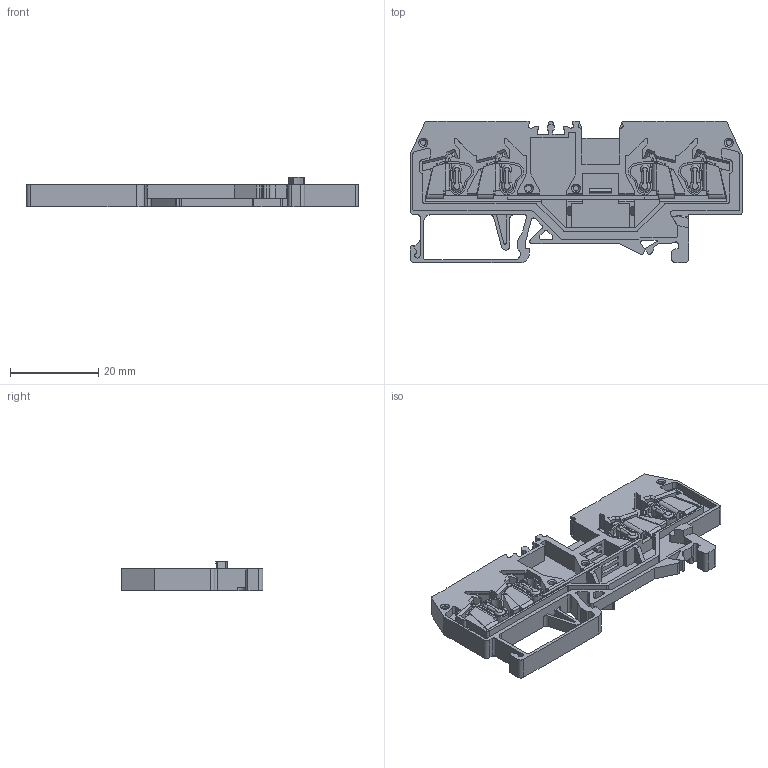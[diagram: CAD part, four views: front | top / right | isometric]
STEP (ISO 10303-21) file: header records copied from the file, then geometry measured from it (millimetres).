
FILE_DESCRIPTION (( 'STEP AP203' ), '1' );
FILE_NAME ('ﾊﾏﾐ1-2,5ﾂ-4ﾂ.STEP', '2019-03-01T12:53:31', ( '' ), ( '' ), 'SwSTEP 2.0', 'SolidWorks 2016', '' );
FILE_SCHEMA (( 'CONFIG_CONTROL_DESIGN' ));
Length unit declared in the file: millimetre
Products named in the file (1): ﾊﾏﾐ1-2,5ﾂ-4ﾂ
Bounding box: 75.4 x 32.2 x 6.8 mm (x, y, z)
Volume: 4784 mm3; surface area: 10688.2 mm2
Topology: 6 solids, 6 shells, 1182 faces, 3315 edges, 2156 vertices
Faces by surface type: plane 758, cylinder 310, bspline 76, cone 27, torus 11
Full cylindrical faces by diameter (mm): 1.4 x4, 1.6 x4
Entity records: 42698 total; most frequent: CARTESIAN_POINT 12524, ORIENTED_EDGE 6582, DIRECTION 5821, EDGE_CURVE 3291, LINE 2397, VECTOR 2397, VERTEX_POINT 2155, AXIS2_PLACEMENT_3D 1712
